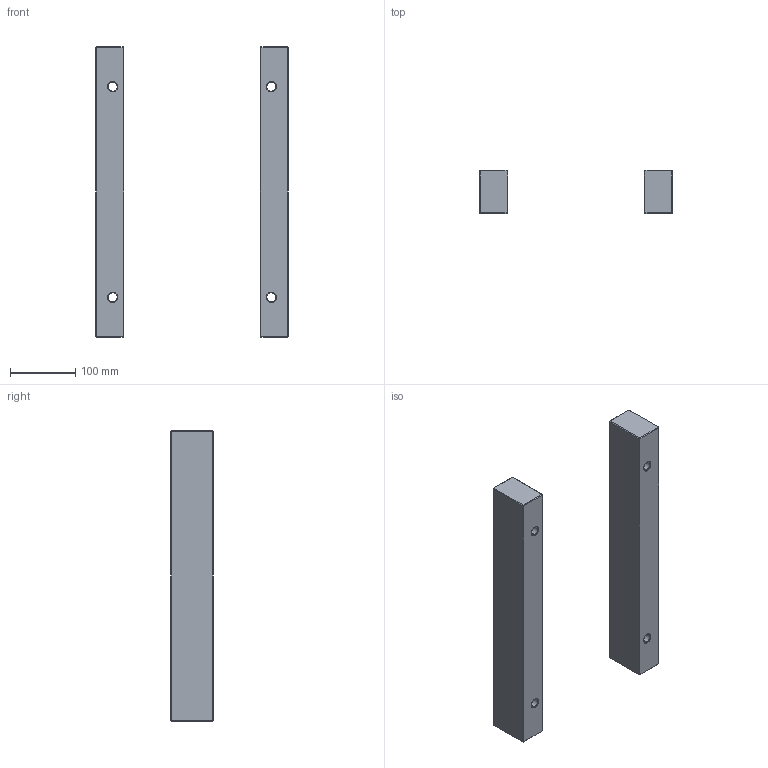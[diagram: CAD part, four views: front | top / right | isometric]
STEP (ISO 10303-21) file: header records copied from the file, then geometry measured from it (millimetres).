
FILE_DESCRIPTION (( 'STEP AP214' ), '1' );
FILE_NAME ('ESP-296X446x66.STEP', '2020-04-14T08:19:05', ( 'August' ), ( '' ), 'SwSTEP 2.0', 'SolidWorks 2018', '' );
FILE_SCHEMA (( 'AUTOMOTIVE_DESIGN' ));
Length unit declared in the file: millimetre
Products named in the file (1): ESP-296X446x66
Bounding box: 296 x 66 x 446 mm (x, y, z)
Volume: 2488462.7 mm3; surface area: 213385.2 mm2
Topology: 2 solids, 2 shells, 76 faces, 152 edges, 80 vertices
Faces by surface type: plane 52, cone 16, cylinder 8
Entity records: 1935 total; most frequent: DIRECTION 338, CARTESIAN_POINT 309, ORIENTED_EDGE 304, EDGE_CURVE 152, VECTOR 120, LINE 120, AXIS2_PLACEMENT_3D 109, EDGE_LOOP 84
